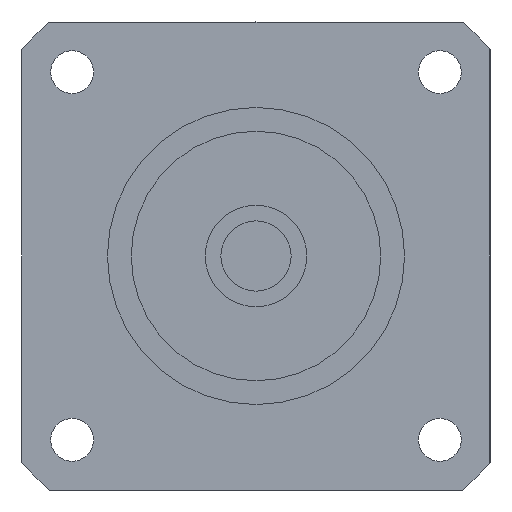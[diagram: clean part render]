
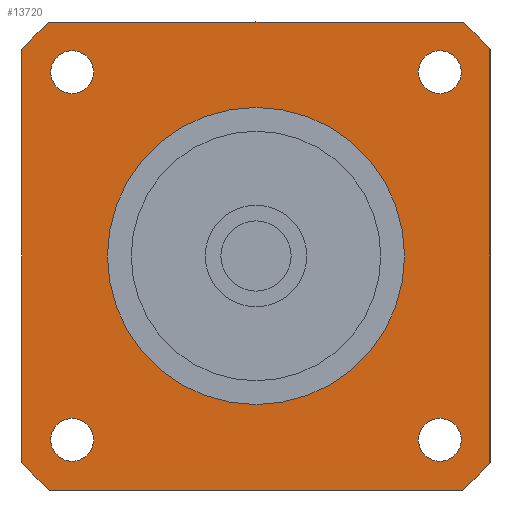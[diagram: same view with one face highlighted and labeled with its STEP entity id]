
A CAD part, left-side view. The second image highlights one B-rep face of the part: STEP entity #13720.
In plain terms, the highlighted planar face has unit normal (-1, 0, 0) as drawn and (0, 0, -1) by its records, which use the part's own axes.
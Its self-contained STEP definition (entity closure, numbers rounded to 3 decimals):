
#8790=CARTESIAN_POINT('',(23.571,20.821,-35.));
#8800=VERTEX_POINT('',#8790);
#8830=CARTESIAN_POINT('',(23.571,23.571,-35.));
#8840=DIRECTION('',(0.,0.,-1.));
#8850=DIRECTION('',(0.,1.,0.));
#8860=AXIS2_PLACEMENT_3D('',#8830,#8840,#8850);
#8870=CIRCLE('',#8860,2.75);
#8880=CARTESIAN_POINT('',(23.571,26.321,-35.));
#8890=VERTEX_POINT('',#8880);
#8900=EDGE_CURVE('',#8890,#8800,#8870,.T.);
#12130=CARTESIAN_POINT('',(0.,-19.05,-35.));
#12140=VERTEX_POINT('',#12130);
#12170=CARTESIAN_POINT('',(0.,0.,
-35.));
#12180=DIRECTION('',(0.,0.,1.));
#12190=DIRECTION('',(1.,0.,0.));
#12200=AXIS2_PLACEMENT_3D('',#12170,#12180,#12190);
#12210=CIRCLE('',#12200,19.05);
#12220=CARTESIAN_POINT('',(19.05,0.,-35.));
#12230=VERTEX_POINT('',#12220);
#12240=EDGE_CURVE('',#12140,#12230,#12210,.T.);
#12260=CARTESIAN_POINT('',(0.,19.05,-35.));
#12270=VERTEX_POINT('',#12260);
#12280=EDGE_CURVE('',#12230,#12270,#12210,.T.);
#12410=CARTESIAN_POINT('',(30.,-30.,-35.));
#12420=DIRECTION('',(0.,0.,-1.));
#12430=DIRECTION('',(0.,-1.,0.));
#12440=AXIS2_PLACEMENT_3D('',#12410,#12420,#12430);
#12450=PLANE('',#12440);
#12460=CARTESIAN_POINT('',(-23.571,23.571,-35.));
#12470=DIRECTION('',(0.,0.,-1.));
#12480=DIRECTION('',(-1.,0.,0.));
#12490=AXIS2_PLACEMENT_3D('',#12460,#12470,#12480);
#12500=CIRCLE('',#12490,2.75);
#12510=CARTESIAN_POINT('',(-26.321,23.571,-35.));
#12520=VERTEX_POINT('',#12510);
#12530=CARTESIAN_POINT('',(-20.821,23.571,-35.));
#12540=VERTEX_POINT('',#12530);
#12550=EDGE_CURVE('',#12520,#12540,#12500,.T.);
#12560=ORIENTED_EDGE('',*,*,#12550,.F.);
#12570=EDGE_CURVE('',#12540,#12520,#12500,.T.);
#12580=ORIENTED_EDGE('',*,*,#12570,.F.);
#12590=EDGE_LOOP('',(#12580,#12560));
#12600=FACE_BOUND('',#12590,.T.);
#12610=ORIENTED_EDGE('',*,*,#8900,.F.);
#12620=EDGE_CURVE('',#8800,#8890,#8870,.T.);
#12630=ORIENTED_EDGE('',*,*,#12620,.F.);
#12640=EDGE_LOOP('',(#12630,#12610));
#12650=FACE_BOUND('',#12640,.T.);
#12660=CARTESIAN_POINT('',(23.571,-23.571,-35.));
#12670=DIRECTION('',(0.,0.,-1.));
#12680=DIRECTION('',(1.,0.,0.));
#12690=AXIS2_PLACEMENT_3D('',#12660,#12670,#12680);
#12700=CIRCLE('',#12690,2.75);
#12710=CARTESIAN_POINT('',(26.321,-23.571,-35.));
#12720=VERTEX_POINT('',#12710);
#12730=CARTESIAN_POINT('',(20.821,-23.571,-35.));
#12740=VERTEX_POINT('',#12730);
#12750=EDGE_CURVE('',#12720,#12740,#12700,.T.);
#12760=ORIENTED_EDGE('',*,*,#12750,.F.);
#12770=EDGE_CURVE('',#12740,#12720,#12700,.T.);
#12780=ORIENTED_EDGE('',*,*,#12770,.F.);
#12790=EDGE_LOOP('',(#12780,#12760));
#12800=FACE_BOUND('',#12790,.T.);
#12810=EDGE_CURVE('',#12270,#12140,#12210,.T.);
#12820=ORIENTED_EDGE('',*,*,#12810,.T.);
#12830=ORIENTED_EDGE('',*,*,#12280,.T.);
#12840=ORIENTED_EDGE('',*,*,#12240,.T.);
#12850=EDGE_LOOP('',(#12840,#12830,#12820));
#12860=FACE_BOUND('',#12850,.T.);
#12870=CARTESIAN_POINT('',(30.,30.,-35.));
#12880=DIRECTION('',(0.,-1.,0.));
#12890=VECTOR('',#12880,1000.);
#12900=LINE('',#12870,#12890);
#12910=CARTESIAN_POINT('',(30.,26.458,-35.));
#12920=VERTEX_POINT('',#12910);
#12930=CARTESIAN_POINT('',(30.,-26.458,-35.));
#12940=VERTEX_POINT('',#12930);
#12950=EDGE_CURVE('',#12920,#12940,#12900,.T.);
#12960=ORIENTED_EDGE('',*,*,#12950,.T.);
#12970=CARTESIAN_POINT('',(0.,0.,
-35.));
#12980=DIRECTION('',(0.,0.,-1.));
#12990=DIRECTION('',(0.,-1.,0.));
#13000=AXIS2_PLACEMENT_3D('',#12970,#12980,#12990);
#13010=CIRCLE('',#13000,40.);
#13020=CARTESIAN_POINT('',(26.458,30.,-35.));
#13030=VERTEX_POINT('',#13020);
#13040=EDGE_CURVE('',#13030,#12920,#13010,.T.);
#13050=ORIENTED_EDGE('',*,*,#13040,.T.);
#13060=CARTESIAN_POINT('',(-30.,30.,-35.));
#13070=DIRECTION('',(1.,0.,0.));
#13080=VECTOR('',#13070,1000.);
#13090=LINE('',#13060,#13080);
#13100=CARTESIAN_POINT('',(-26.458,30.,-35.));
#13110=VERTEX_POINT('',#13100);
#13120=EDGE_CURVE('',#13110,#13030,#13090,.T.);
#13130=ORIENTED_EDGE('',*,*,#13120,.T.);
#13140=CARTESIAN_POINT('',(0.,0.,
-35.));
#13150=DIRECTION('',(0.,0.,-1.));
#13160=DIRECTION('',(0.,-1.,0.));
#13170=AXIS2_PLACEMENT_3D('',#13140,#13150,#13160);
#13180=CIRCLE('',#13170,40.);
#13190=CARTESIAN_POINT('',(-30.,26.458,-35.));
#13200=VERTEX_POINT('',#13190);
#13210=EDGE_CURVE('',#13200,#13110,#13180,.T.);
#13220=ORIENTED_EDGE('',*,*,#13210,.T.);
#13230=CARTESIAN_POINT('',(-30.,-30.,-35.));
#13240=DIRECTION('',(0.,1.,0.));
#13250=VECTOR('',#13240,1000.);
#13260=LINE('',#13230,#13250);
#13270=CARTESIAN_POINT('',(-30.,-26.458,-35.));
#13280=VERTEX_POINT('',#13270);
#13290=EDGE_CURVE('',#13280,#13200,#13260,.T.);
#13300=ORIENTED_EDGE('',*,*,#13290,.T.);
#13310=CARTESIAN_POINT('',(0.,0.,
-35.));
#13320=DIRECTION('',(0.,0.,-1.));
#13330=DIRECTION('',(0.,-1.,0.));
#13340=AXIS2_PLACEMENT_3D('',#13310,#13320,#13330);
#13350=CIRCLE('',#13340,40.);
#13360=CARTESIAN_POINT('',(-26.458,-30.,-35.));
#13370=VERTEX_POINT('',#13360);
#13380=EDGE_CURVE('',#13370,#13280,#13350,.T.);
#13390=ORIENTED_EDGE('',*,*,#13380,.T.);
#13400=CARTESIAN_POINT('',(30.,-30.,-35.));
#13410=DIRECTION('',(-1.,0.,0.));
#13420=VECTOR('',#13410,1000.);
#13430=LINE('',#13400,#13420);
#13440=CARTESIAN_POINT('',(26.458,-30.,-35.));
#13450=VERTEX_POINT('',#13440);
#13460=EDGE_CURVE('',#13450,#13370,#13430,.T.);
#13470=ORIENTED_EDGE('',*,*,#13460,.T.);
#13480=CARTESIAN_POINT('',(0.,0.,
-35.));
#13490=DIRECTION('',(0.,0.,-1.));
#13500=DIRECTION('',(0.,-1.,0.));
#13510=AXIS2_PLACEMENT_3D('',#13480,#13490,#13500);
#13520=CIRCLE('',#13510,40.);
#13530=EDGE_CURVE('',#12940,#13450,#13520,.T.);
#13540=ORIENTED_EDGE('',*,*,#13530,.T.);
#13550=EDGE_LOOP('',(#13540,#13470,#13390,#13300,#13220,#13130,#13050,
#12960));
#13560=FACE_OUTER_BOUND('',#13550,.T.);
#13570=CARTESIAN_POINT('',(-23.571,-23.571,-35.));
#13580=DIRECTION('',(0.,0.,-1.));
#13590=DIRECTION('',(0.,-1.,0.));
#13600=AXIS2_PLACEMENT_3D('',#13570,#13580,#13590);
#13610=CIRCLE('',#13600,2.75);
#13620=CARTESIAN_POINT('',(-23.571,-26.321,-35.));
#13630=VERTEX_POINT('',#13620);
#13640=CARTESIAN_POINT('',(-23.571,-20.821,-35.));
#13650=VERTEX_POINT('',#13640);
#13660=EDGE_CURVE('',#13630,#13650,#13610,.T.);
#13670=ORIENTED_EDGE('',*,*,#13660,.F.);
#13680=EDGE_CURVE('',#13650,#13630,#13610,.T.);
#13690=ORIENTED_EDGE('',*,*,#13680,.F.);
#13700=EDGE_LOOP('',(#13690,#13670));
#13710=FACE_BOUND('',#13700,.T.);
#13720=ADVANCED_FACE('',(#12600,#12650,#12800,#12860,#13560,#13710),
#12450,.T.);
